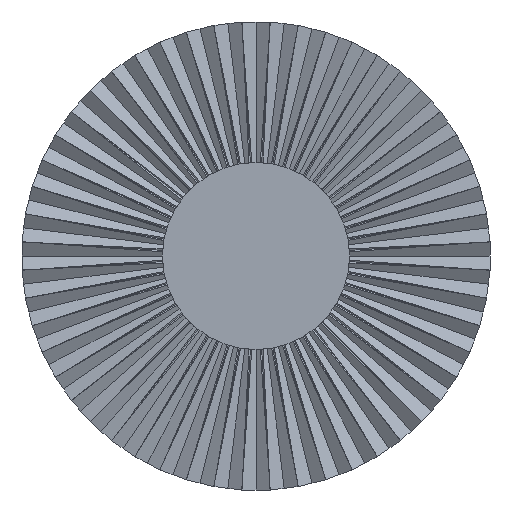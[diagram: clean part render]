
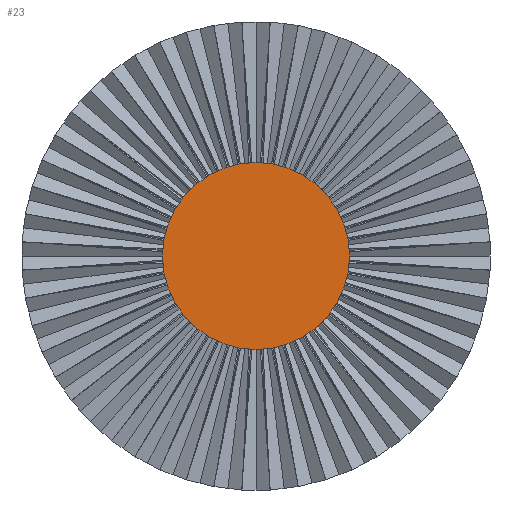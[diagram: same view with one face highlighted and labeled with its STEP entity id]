
A CAD part, front view. The second image highlights one B-rep face of the part: STEP entity #23.
In plain terms, the highlighted planar face has unit normal (0, -1, 0).
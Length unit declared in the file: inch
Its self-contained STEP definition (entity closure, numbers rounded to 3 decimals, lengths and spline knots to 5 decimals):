
#23 = ADVANCED_FACE ( 'NONE', ( #17346 ), #20553, .F. ) ;
#576 = AXIS2_PLACEMENT_3D ( 'NONE', #2870, #8014, #22089 ) ;
#1675 = DIRECTION ( 'NONE',  ( 0., 0., 1. ) ) ;
#2870 = CARTESIAN_POINT ( 'NONE',  ( 0., -1.37685, 0. ) ) ;
#4640 = CARTESIAN_POINT ( 'NONE',  ( 0., -1.37685, -3.935 ) ) ;
#5234 = DIRECTION ( 'NONE',  ( 0., 1., 0. ) ) ;
#6047 = AXIS2_PLACEMENT_3D ( 'NONE', #15010, #9852, #10067 ) ;
#6703 = CARTESIAN_POINT ( 'NONE',  ( 0., -1.37685, 0. ) ) ;
#8014 = DIRECTION ( 'NONE',  ( 0., 1., 0. ) ) ;
#9666 = CIRCLE ( 'NONE', #6047, 3.935 ) ;
#9852 = DIRECTION ( 'NONE',  ( 0., 1., 0. ) ) ;
#9974 = ORIENTED_EDGE ( 'NONE', *, *, #10804, .F. ) ;
#10067 = DIRECTION ( 'NONE',  ( 0., 0., 1. ) ) ;
#10804 = EDGE_CURVE ( 'NONE', #11224, #13654, #19928, .T. ) ;
#11224 = VERTEX_POINT ( 'NONE', #4640 ) ;
#13654 = VERTEX_POINT ( 'NONE', #21803 ) ;
#15010 = CARTESIAN_POINT ( 'NONE',  ( 0., -1.37685, 0. ) ) ;
#16988 = ORIENTED_EDGE ( 'NONE', *, *, #18368, .F. ) ;
#17197 = EDGE_LOOP ( 'NONE', ( #16988, #9974 ) ) ;
#17346 = FACE_OUTER_BOUND ( 'NONE', #17197, .T. ) ;
#18368 = EDGE_CURVE ( 'NONE', #13654, #11224, #9666, .T. ) ;
#19190 = AXIS2_PLACEMENT_3D ( 'NONE', #6703, #5234, #1675 ) ;
#19928 = CIRCLE ( 'NONE', #576, 3.935 ) ;
#20553 = PLANE ( 'NONE',  #19190 ) ;
#21803 = CARTESIAN_POINT ( 'NONE',  ( 0., -1.37685, 3.935 ) ) ;
#22089 = DIRECTION ( 'NONE',  ( 0., 0., 1. ) ) ;
